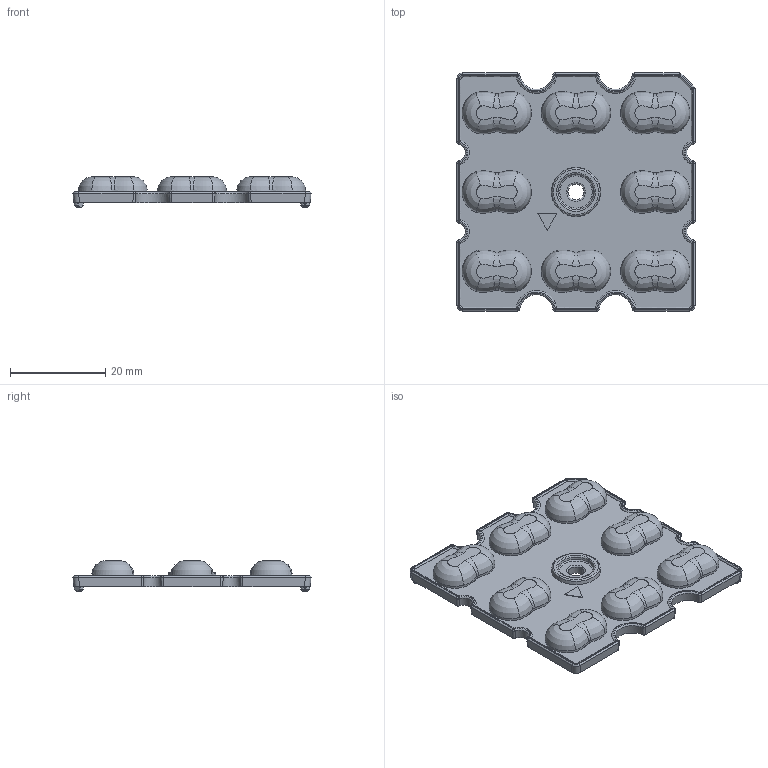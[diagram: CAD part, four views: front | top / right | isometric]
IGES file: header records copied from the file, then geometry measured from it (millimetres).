
Global section: file name: C:\CoreTechnologie\3D-In/022YS00Y09.igs; native system: CT CoreTechnologie 3D Evolution; preprocessor: 2006; date: 1200809.104714; units: millimetre
Bounding box: 49.9 x 49.9 x 6.4 mm (x, y, z)
Volume: 6554 mm3; surface area: 6345.4 mm2
Topology: 1 solids, 1 shells, 596 faces, 1452 edges, 904 vertices
Faces by surface type: bspline 263, plane 173, revolution 160
